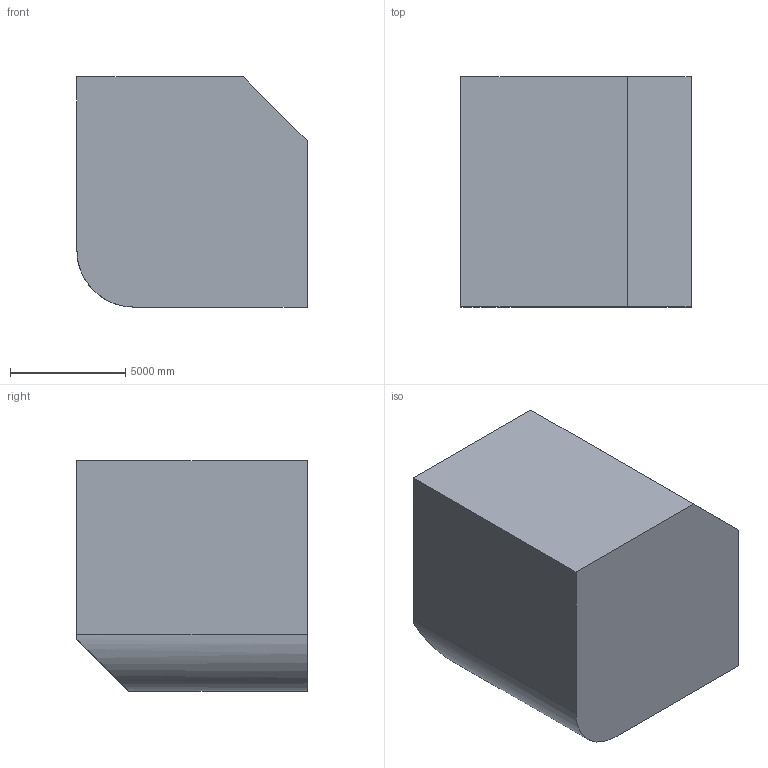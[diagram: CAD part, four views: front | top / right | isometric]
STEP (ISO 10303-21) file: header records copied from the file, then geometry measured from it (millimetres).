
FILE_DESCRIPTION (( 'STEP AP203' ), '1' );
FILE_NAME ('1293.STEP', '2022-08-18T13:36:10', ( 'user' ), ( '' ), 'SwSTEP 2.0', 'SolidWorks 2021', '' );
FILE_SCHEMA (( 'CONFIG_CONTROL_DESIGN' ));
Length unit declared in the file: centimetre
Products named in the file (1): 1293
Bounding box: 10000 x 10000 x 10000 mm (x, y, z)
Volume: 925205100643.9 mm3; surface area: 546821924.5 mm2
Topology: 1 solids, 1 shells, 9 faces, 21 edges, 14 vertices
Faces by surface type: plane 8, cylinder 1
Entity records: 334 total; most frequent: CARTESIAN_POINT 48, DIRECTION 42, ORIENTED_EDGE 42, EDGE_CURVE 21, VECTOR 18, LINE 18, VERTEX_POINT 14, AXIS2_PLACEMENT_3D 12
